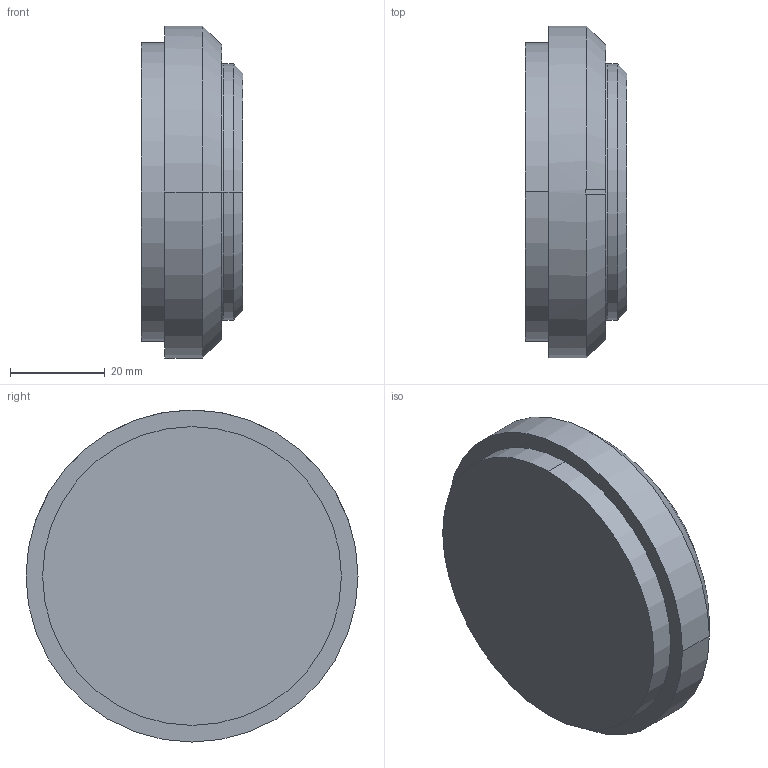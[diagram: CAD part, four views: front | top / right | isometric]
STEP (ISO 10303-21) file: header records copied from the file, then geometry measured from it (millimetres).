
FILE_DESCRIPTION (( 'STEP AP214' ), '1' );
FILE_NAME ('IRB1300 Type A_7&12Kg-1400-Foundry-BTM_OC_00_link6.STEP', '2026-05-19T12:05:46', ( '' ), ( '' ), 'SwSTEP 2.0', 'SolidWorks 2024', '' );
FILE_SCHEMA (( 'AUTOMOTIVE_DESIGN' ));
Length unit declared in the file: millimetre
Products named in the file (1): IRB1300 Type A_7&12Kg-1400-Foundry-BTM_OC_00_link6
Bounding box: 21.5 x 70 x 70 mm (x, y, z)
Volume: 64300.1 mm3; surface area: 13081.6 mm2
Topology: 1 solids, 1 shells, 87 faces, 182 edges, 110 vertices
Faces by surface type: cylinder 42, cone 21, plane 20, torus 4
Entity records: 2335 total; most frequent: DIRECTION 457, CARTESIAN_POINT 385, ORIENTED_EDGE 356, AXIS2_PLACEMENT_3D 194, EDGE_CURVE 178, VERTEX_POINT 110, CIRCLE 106, EDGE_LOOP 104
